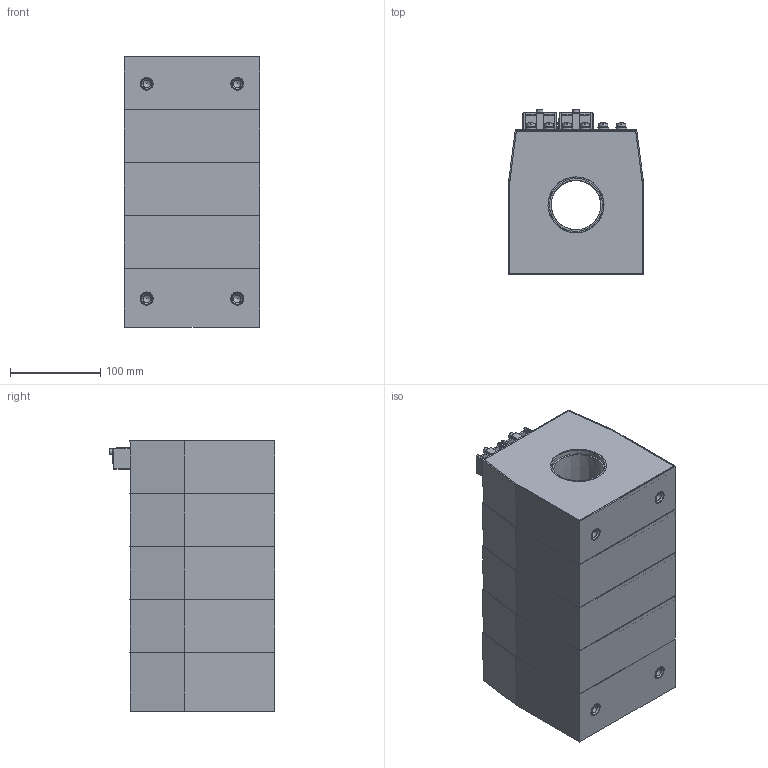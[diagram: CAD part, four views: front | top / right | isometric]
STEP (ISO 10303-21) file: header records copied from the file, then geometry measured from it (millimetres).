
FILE_DESCRIPTION(('STEP AP203'), '1');
FILE_NAME('ÒØÏ-ÍÒÇ-0,66-75À (55 ìì, 5-é ãàáàðèò)', '2025-08-27T09:35:34', ('UNSPECIFIED'), ('UNSPECIFIED'), 'ASCON STEP Converter 1.3', 'ASCON Math Kernel', '');
FILE_SCHEMA(('CONFIG_CONTROL_DESIGN'));
Length unit declared in the file: millimetre
Assembly tree (45 placements, depth 2):
  (unnamed)
    (unnamed)
    (unnamed)  x3
    (unnamed)
    (unnamed)  x5
    (unnamed)  x4
    (unnamed)  x2
    (unnamed)  x6
    (unnamed)  x2
    (unnamed)  x6
    (unnamed)  x6
    (unnamed)  x6
    (unnamed)  x2
    (unnamed)
Bounding box: 150 x 182.93 x 299 mm (x, y, z)
Volume: 947770.7 mm3; surface area: 645861.8 mm2
Topology: 45 solids, 45 shells, 750 faces, 1699 edges, 1069 vertices
Faces by surface type: plane 419, cylinder 208, cone 87, torus 20, bspline 16
Full cylindrical faces by diameter (mm): 3.244 x2, 3.95 x2, 4 x6, 4.5 x2, 4.8 x6, 4.92 x6, 6 x22, 6.4 x6, 7 x2, 7.1 x4, 8 x2, 8.376 x4, 10 x12, 10.1 x6, 12 x12, 14 x8, 17 x4, 55 x1, 55.05 x1, 58.599 x10, 58.6 x1, 61 x1, 65.05 x1, 68.6 x1
Entity records: 14328 total; most frequent: CARTESIAN_POINT 2826, DIRECTION 1594, ORIENTED_EDGE 1398, EDGE_CURVE 699, AXIS2_PLACEMENT_3D 578, VERTEX_POINT 492, EDGE_LOOP 469, LINE 438
